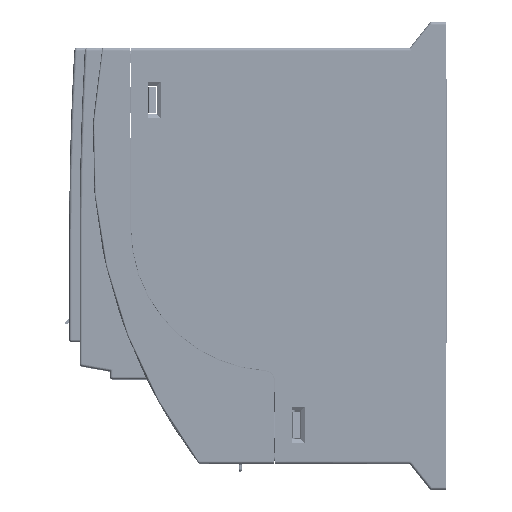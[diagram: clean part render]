
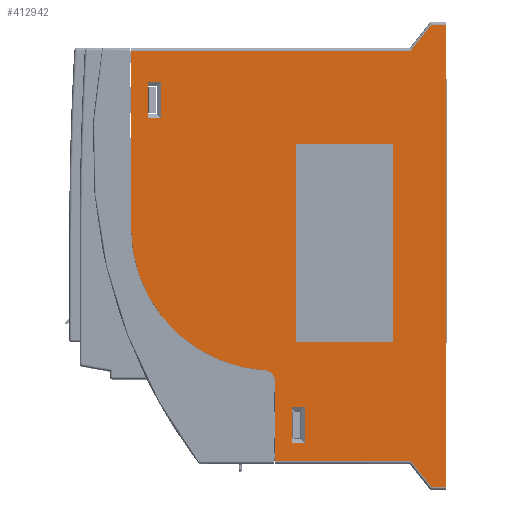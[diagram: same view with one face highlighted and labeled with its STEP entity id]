
A CAD part, top view. The second image highlights one B-rep face of the part: STEP entity #412942.
In plain terms, the highlighted planar face has unit normal (0, 0, 1).
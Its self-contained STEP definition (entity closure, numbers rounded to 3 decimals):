
#204259=CARTESIAN_POINT('',(-13.519,-84.,37.5));
#204317=DIRECTION('',(0.625,-0.781,0.));
#204318=VECTOR('',#204317,12.806);
#204319=CARTESIAN_POINT('',(-13.519,-84.,37.5));
#204320=LINE('',#204319,#204318);
#204321=DIRECTION('',(1.,0.,0.));
#204322=VECTOR('',#204321,107.681);
#204323=CARTESIAN_POINT('',(-121.2,74.,37.5));
#204324=LINE('',#204323,#204322);
#204325=DIRECTION('',(1.,0.,0.));
#204326=VECTOR('',#204325,5.519);
#204327=CARTESIAN_POINT('',(-5.519,84.,37.5));
#204328=LINE('',#204327,#204326);
#204329=DIRECTION('',(1.,0.,0.));
#204330=VECTOR('',#204329,5.519);
#204331=CARTESIAN_POINT('',(-5.519,-94.,37.5));
#204332=LINE('',#204331,#204330);
#204333=DIRECTION('',(-1.,0.,0.));
#204334=VECTOR('',#204333,52.381);
#204335=CARTESIAN_POINT('',(-13.519,-84.,37.5));
#204336=LINE('',#204335,#204334);
#204337=DIRECTION('',(0.,1.,0.));
#204338=VECTOR('',#204337,31.104);
#204339=CARTESIAN_POINT('',(-65.9,-84.,37.5));
#204340=LINE('',#204339,#204338);
#204341=CARTESIAN_POINT('',(-69.7,-52.896,37.5));
#204342=DIRECTION('',(0.,0.,-1.));
#204343=DIRECTION('',(0.06,0.998,0.));
#204344=AXIS2_PLACEMENT_3D('',#204341,#204342,#204343);
#204346=CARTESIAN_POINT('',(-66.2,5.8,37.5));
#204347=DIRECTION('',(0.,0.,-1.));
#204348=DIRECTION('',(-0.06,-0.998,0.));
#204349=AXIS2_PLACEMENT_3D('',#204346,#204347,#204348);
#204351=DIRECTION('',(1.,0.,0.));
#204352=VECTOR('',#204351,37.);
#204353=CARTESIAN_POINT('',(-57.55,-38.,37.5));
#204354=LINE('',#204353,#204352);
#204355=DIRECTION('',(0.,1.,0.));
#204356=VECTOR('',#204355,76.);
#204357=CARTESIAN_POINT('',(-20.55,-38.,37.5));
#204358=LINE('',#204357,#204356);
#204359=DIRECTION('',(-1.,0.,0.));
#204360=VECTOR('',#204359,37.);
#204361=CARTESIAN_POINT('',(-20.55,38.,37.5));
#204362=LINE('',#204361,#204360);
#204363=DIRECTION('',(0.,-1.,0.));
#204364=VECTOR('',#204363,76.);
#204365=CARTESIAN_POINT('',(-57.55,38.,37.5));
#204366=LINE('',#204365,#204364);
#204367=DIRECTION('',(-1.,0.,0.));
#204368=VECTOR('',#204367,4.9);
#204369=CARTESIAN_POINT('',(-54.4,-77.,37.5));
#204370=LINE('',#204369,#204368);
#204371=DIRECTION('',(0.,-1.,0.));
#204372=VECTOR('',#204371,14.);
#204373=CARTESIAN_POINT('',(-54.4,-63.,37.5));
#204374=LINE('',#204373,#204372);
#204375=DIRECTION('',(1.,0.,0.));
#204376=VECTOR('',#204375,4.9);
#204377=CARTESIAN_POINT('',(-59.3,-63.,37.5));
#204378=LINE('',#204377,#204376);
#204379=DIRECTION('',(-1.,0.,0.));
#204380=VECTOR('',#204379,4.9);
#204381=CARTESIAN_POINT('',(-109.7,48.,37.5));
#204382=LINE('',#204381,#204380);
#204383=DIRECTION('',(0.,-1.,0.));
#204384=VECTOR('',#204383,14.);
#204385=CARTESIAN_POINT('',(-109.7,62.,37.5));
#204386=LINE('',#204385,#204384);
#204387=DIRECTION('',(1.,0.,0.));
#204388=VECTOR('',#204387,4.9);
#204389=CARTESIAN_POINT('',(-114.6,62.,37.5));
#204390=LINE('',#204389,#204388);
#204447=CARTESIAN_POINT('',(-13.519,74.,37.5));
#205124=DIRECTION('',(0.,-1.,0.));
#205125=VECTOR('',#205124,68.2);
#205126=CARTESIAN_POINT('',(-121.2,74.,37.5));
#205127=LINE('',#205126,#205125);
#205801=DIRECTION('',(0.,1.,0.));
#205802=VECTOR('',#205801,14.);
#205803=CARTESIAN_POINT('',(-114.6,48.,37.5));
#205804=LINE('',#205803,#205802);
#206221=DIRECTION('',(0.,1.,0.));
#206222=VECTOR('',#206221,14.);
#206223=CARTESIAN_POINT('',(-59.3,-77.,37.5));
#206224=LINE('',#206223,#206222);
#219295=DIRECTION('',(0.,1.,0.));
#219296=VECTOR('',#219295,178.);
#219297=CARTESIAN_POINT('',(0.,-94.,37.5));
#219298=LINE('',#219297,#219296);
#225127=DIRECTION('',(-0.625,-0.781,0.));
#225128=VECTOR('',#225127,12.806);
#225129=CARTESIAN_POINT('',(-5.519,84.,37.5));
#225130=LINE('',#225129,#225128);
#289074=CARTESIAN_POINT('',(-69.474,-49.102,37.5));
#289075=CARTESIAN_POINT('',(-121.2,5.8,37.5));
#289076=VERTEX_POINT('',#289074);
#289077=VERTEX_POINT('',#289075);
#289080=CARTESIAN_POINT('',(-65.9,-52.896,37.5));
#289081=VERTEX_POINT('',#289080);
#289114=CARTESIAN_POINT('',(-57.55,-38.,37.5));
#289115=CARTESIAN_POINT('',(-20.55,-38.,37.5));
#289116=VERTEX_POINT('',#289114);
#289117=VERTEX_POINT('',#289115);
#289118=CARTESIAN_POINT('',(-20.55,38.,37.5));
#289119=VERTEX_POINT('',#289118);
#289120=CARTESIAN_POINT('',(-57.55,38.,37.5));
#289121=VERTEX_POINT('',#289120);
#290013=CARTESIAN_POINT('',(0.,84.,37.5));
#290015=VERTEX_POINT('',#290013);
#290016=CARTESIAN_POINT('',(-5.519,84.,37.5));
#290017=VERTEX_POINT('',#290016);
#290020=CARTESIAN_POINT('',(0.,-94.,37.5));
#290021=VERTEX_POINT('',#290020);
#290081=CARTESIAN_POINT('',(-5.519,-94.,37.5));
#290082=VERTEX_POINT('',#290081);
#290205=CARTESIAN_POINT('',(-121.2,74.,37.5));
#290207=VERTEX_POINT('',#290205);
#290218=CARTESIAN_POINT('',(-65.9,-84.,37.5));
#290220=VERTEX_POINT('',#290218);
#290457=CARTESIAN_POINT('',(-54.4,-77.,37.5));
#290458=CARTESIAN_POINT('',(-59.3,-77.,37.5));
#290459=VERTEX_POINT('',#290457);
#290460=VERTEX_POINT('',#290458);
#290463=CARTESIAN_POINT('',(-54.4,-63.,37.5));
#290464=VERTEX_POINT('',#290463);
#290465=CARTESIAN_POINT('',(-59.3,-63.,37.5));
#290466=VERTEX_POINT('',#290465);
#290473=CARTESIAN_POINT('',(-109.7,48.,37.5));
#290474=CARTESIAN_POINT('',(-114.6,48.,37.5));
#290475=VERTEX_POINT('',#290473);
#290476=VERTEX_POINT('',#290474);
#290479=CARTESIAN_POINT('',(-109.7,62.,37.5));
#290480=VERTEX_POINT('',#290479);
#290481=CARTESIAN_POINT('',(-114.6,62.,37.5));
#290482=VERTEX_POINT('',#290481);
#295906=VERTEX_POINT('',#204447);
#296023=VERTEX_POINT('',#204259);
#412885=CARTESIAN_POINT('',(0.,-95.,37.5));
#412886=DIRECTION('',(0.,0.,1.));
#412887=DIRECTION('',(0.,1.,0.));
#412888=AXIS2_PLACEMENT_3D('',#412885,#412886,#412887);
#412889=PLANE('',#412888);
#412891=ORIENTED_EDGE('',*,*,#412890,.T.);
#412893=ORIENTED_EDGE('',*,*,#412892,.F.);
#412895=ORIENTED_EDGE('',*,*,#412894,.T.);
#412897=ORIENTED_EDGE('',*,*,#412896,.F.);
#412899=ORIENTED_EDGE('',*,*,#412898,.F.);
#412900=ORIENTED_EDGE('',*,*,#412876,.F.);
#412902=ORIENTED_EDGE('',*,*,#412901,.T.);
#412903=ORIENTED_EDGE('',*,*,#408215,.T.);
#412905=ORIENTED_EDGE('',*,*,#412904,.F.);
#412907=ORIENTED_EDGE('',*,*,#412906,.T.);
#412909=ORIENTED_EDGE('',*,*,#412908,.F.);
#412910=EDGE_LOOP('',(#412891,#412893,#412895,#412897,#412899,#412900,#412902,
#412903,#412905,#412907,#412909));
#412911=FACE_OUTER_BOUND('',#412910,.F.);
#412913=ORIENTED_EDGE('',*,*,#412912,.T.);
#412915=ORIENTED_EDGE('',*,*,#412914,.T.);
#412917=ORIENTED_EDGE('',*,*,#412916,.T.);
#412919=ORIENTED_EDGE('',*,*,#412918,.T.);
#412920=EDGE_LOOP('',(#412913,#412915,#412917,#412919));
#412921=FACE_BOUND('',#412920,.F.);
#412923=ORIENTED_EDGE('',*,*,#412922,.F.);
#412925=ORIENTED_EDGE('',*,*,#412924,.F.);
#412927=ORIENTED_EDGE('',*,*,#412926,.F.);
#412929=ORIENTED_EDGE('',*,*,#412928,.F.);
#412930=EDGE_LOOP('',(#412923,#412925,#412927,#412929));
#412931=FACE_BOUND('',#412930,.F.);
#412933=ORIENTED_EDGE('',*,*,#412932,.F.);
#412935=ORIENTED_EDGE('',*,*,#412934,.F.);
#412937=ORIENTED_EDGE('',*,*,#412936,.F.);
#412939=ORIENTED_EDGE('',*,*,#412938,.F.);
#412940=EDGE_LOOP('',(#412933,#412935,#412937,#412939));
#412941=FACE_BOUND('',#412940,.F.);
#412942=ADVANCED_FACE('',(#412911,#412921,#412931,#412941),#412889,.T.);
#204345=CIRCLE('',#204344,3.8);
#204350=CIRCLE('',#204349,55.);
#408215=EDGE_CURVE('',#290220,#289081,#204340,.T.);
#412876=EDGE_CURVE('',#296023,#290082,#204320,.T.);
#412890=EDGE_CURVE('',#290207,#295906,#204324,.T.);
#412892=EDGE_CURVE('',#290017,#295906,#225130,.T.);
#412894=EDGE_CURVE('',#290017,#290015,#204328,.T.);
#412896=EDGE_CURVE('',#290021,#290015,#219298,.T.);
#412898=EDGE_CURVE('',#290082,#290021,#204332,.T.);
#412901=EDGE_CURVE('',#296023,#290220,#204336,.T.);
#412904=EDGE_CURVE('',#289076,#289081,#204345,.T.);
#412906=EDGE_CURVE('',#289076,#289077,#204350,.T.);
#412908=EDGE_CURVE('',#290207,#289077,#205127,.T.);
#412912=EDGE_CURVE('',#289116,#289117,#204354,.T.);
#412914=EDGE_CURVE('',#289117,#289119,#204358,.T.);
#412916=EDGE_CURVE('',#289119,#289121,#204362,.T.);
#412918=EDGE_CURVE('',#289121,#289116,#204366,.T.);
#412922=EDGE_CURVE('',#290459,#290460,#204370,.T.);
#412924=EDGE_CURVE('',#290464,#290459,#204374,.T.);
#412926=EDGE_CURVE('',#290466,#290464,#204378,.T.);
#412928=EDGE_CURVE('',#290460,#290466,#206224,.T.);
#412932=EDGE_CURVE('',#290475,#290476,#204382,.T.);
#412934=EDGE_CURVE('',#290480,#290475,#204386,.T.);
#412936=EDGE_CURVE('',#290482,#290480,#204390,.T.);
#412938=EDGE_CURVE('',#290476,#290482,#205804,.T.);
